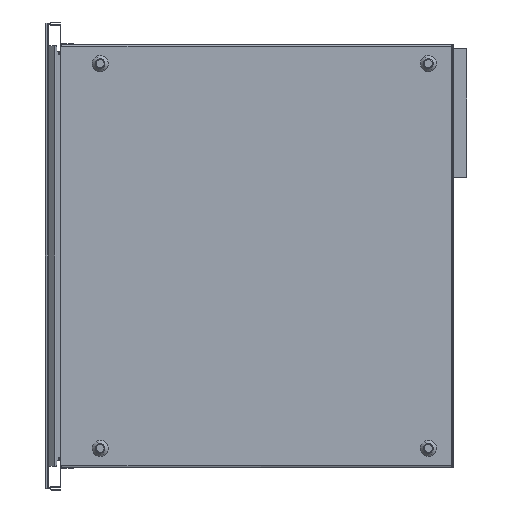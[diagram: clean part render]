
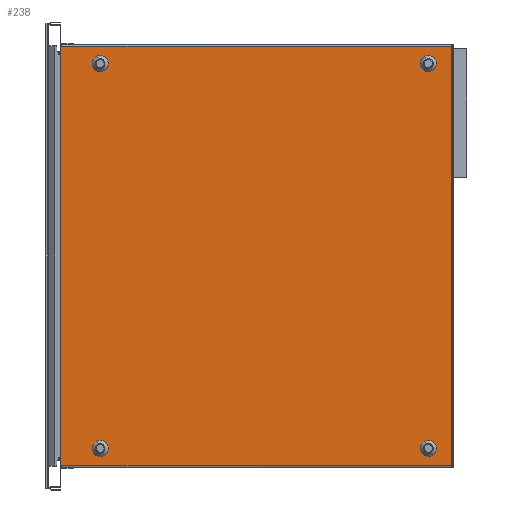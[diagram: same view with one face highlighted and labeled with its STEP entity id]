
A CAD part, front view. The second image highlights one B-rep face of the part: STEP entity #238.
In plain terms, the highlighted planar face has unit normal (0, -1, 0).
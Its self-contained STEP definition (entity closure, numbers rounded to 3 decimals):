
#61=AXIS2_PLACEMENT_3D('Circle Axis2P3D',#59,#60,$) ;
#78=AXIS2_PLACEMENT_3D('Circle Axis2P3D',#76,#77,$) ;
#144=AXIS2_PLACEMENT_3D('Plane Axis2P3D',#141,#142,#143) ;
#186=AXIS2_PLACEMENT_3D('Circle Axis2P3D',#184,#185,$) ;
#195=AXIS2_PLACEMENT_3D('Circle Axis2P3D',#193,#194,$) ;
#204=AXIS2_PLACEMENT_3D('Circle Axis2P3D',#202,#203,$) ;
#213=AXIS2_PLACEMENT_3D('Circle Axis2P3D',#211,#212,$) ;
#222=AXIS2_PLACEMENT_3D('Circle Axis2P3D',#220,#221,$) ;
#231=AXIS2_PLACEMENT_3D('Circle Axis2P3D',#229,#230,$) ;
#40=CARTESIAN_POINT('Vertex',(74.945,-137.,235.948)) ;
#56=CARTESIAN_POINT('Vertex',(65.055,-137.,254.052)) ;
#59=CARTESIAN_POINT('Axis2P3D Location',(70.,-137.,245.)) ;
#76=CARTESIAN_POINT('Axis2P3D Location',(70.,-137.,245.)) ;
#141=CARTESIAN_POINT('Axis2P3D Location',(0.,-137.,0.)) ;
#146=CARTESIAN_POINT('Line Origine',(268.825,-137.,-267.4)) ;
#150=CARTESIAN_POINT('Vertex',(517.65,-137.,-267.4)) ;
#152=CARTESIAN_POINT('Vertex',(20.,-137.,-267.4)) ;
#155=CARTESIAN_POINT('Line Origine',(517.65,-137.,0.)) ;
#159=CARTESIAN_POINT('Vertex',(517.65,-137.,267.4)) ;
#162=CARTESIAN_POINT('Line Origine',(268.825,-137.,267.4)) ;
#166=CARTESIAN_POINT('Vertex',(20.,-137.,267.4)) ;
#169=CARTESIAN_POINT('Line Origine',(20.,-137.,0.)) ;
#184=CARTESIAN_POINT('Axis2P3D Location',(70.,-137.,-245.)) ;
#188=CARTESIAN_POINT('Vertex',(74.945,-137.,-254.052)) ;
#190=CARTESIAN_POINT('Vertex',(65.055,-137.,-235.948)) ;
#193=CARTESIAN_POINT('Axis2P3D Location',(70.,-137.,-245.)) ;
#202=CARTESIAN_POINT('Axis2P3D Location',(488.,-137.,245.)) ;
#206=CARTESIAN_POINT('Vertex',(492.945,-137.,235.948)) ;
#208=CARTESIAN_POINT('Vertex',(483.055,-137.,254.052)) ;
#211=CARTESIAN_POINT('Axis2P3D Location',(488.,-137.,245.)) ;
#220=CARTESIAN_POINT('Axis2P3D Location',(488.,-137.,-245.)) ;
#224=CARTESIAN_POINT('Vertex',(492.945,-137.,-254.052)) ;
#226=CARTESIAN_POINT('Vertex',(483.055,-137.,-235.948)) ;
#229=CARTESIAN_POINT('Axis2P3D Location',(488.,-137.,-245.)) ;
#60=DIRECTION('Axis2P3D Direction',(0.,1.,-0.)) ;
#77=DIRECTION('Axis2P3D Direction',(0.,1.,-0.)) ;
#142=DIRECTION('Axis2P3D Direction',(0.,1.,0.)) ;
#143=DIRECTION('Axis2P3D XDirection',(-1.,0.,0.)) ;
#147=DIRECTION('Vector Direction',(1.,0.,0.)) ;
#156=DIRECTION('Vector Direction',(0.,0.,1.)) ;
#163=DIRECTION('Vector Direction',(-1.,0.,0.)) ;
#170=DIRECTION('Vector Direction',(0.,0.,-1.)) ;
#185=DIRECTION('Axis2P3D Direction',(0.,1.,0.)) ;
#194=DIRECTION('Axis2P3D Direction',(0.,1.,0.)) ;
#203=DIRECTION('Axis2P3D Direction',(0.,1.,0.)) ;
#212=DIRECTION('Axis2P3D Direction',(0.,1.,0.)) ;
#221=DIRECTION('Axis2P3D Direction',(0.,1.,0.)) ;
#230=DIRECTION('Axis2P3D Direction',(0.,1.,0.)) ;
#148=VECTOR('Line Direction',#147,1.) ;
#157=VECTOR('Line Direction',#156,1.) ;
#164=VECTOR('Line Direction',#163,1.) ;
#171=VECTOR('Line Direction',#170,1.) ;
#175=ORIENTED_EDGE('',*,*,#154,.F.) ;
#176=ORIENTED_EDGE('',*,*,#161,.F.) ;
#177=ORIENTED_EDGE('',*,*,#168,.F.) ;
#178=ORIENTED_EDGE('',*,*,#173,.F.) ;
#181=ORIENTED_EDGE('',*,*,#63,.F.) ;
#182=ORIENTED_EDGE('',*,*,#80,.F.) ;
#199=ORIENTED_EDGE('',*,*,#192,.F.) ;
#200=ORIENTED_EDGE('',*,*,#197,.F.) ;
#217=ORIENTED_EDGE('',*,*,#210,.F.) ;
#218=ORIENTED_EDGE('',*,*,#215,.F.) ;
#235=ORIENTED_EDGE('',*,*,#228,.F.) ;
#236=ORIENTED_EDGE('',*,*,#233,.F.) ;
#183=FACE_BOUND('',#180,.T.) ;
#201=FACE_BOUND('',#198,.T.) ;
#219=FACE_BOUND('',#216,.T.) ;
#237=FACE_BOUND('',#234,.T.) ;
#238=ADVANCED_FACE('Schublade.Geh\X2\00E4\X0\use',(#179,#183,#201,#219,#237),#145,.F.) ;
#62=CIRCLE('generated circle',#61,10.315) ;
#79=CIRCLE('generated circle',#78,10.315) ;
#187=CIRCLE('generated circle',#186,10.315) ;
#196=CIRCLE('generated circle',#195,10.315) ;
#205=CIRCLE('generated circle',#204,10.315) ;
#214=CIRCLE('generated circle',#213,10.315) ;
#223=CIRCLE('generated circle',#222,10.315) ;
#232=CIRCLE('generated circle',#231,10.315) ;
#63=EDGE_CURVE('',#57,#41,#62,.F.) ;
#80=EDGE_CURVE('',#41,#57,#79,.F.) ;
#154=EDGE_CURVE('',#151,#153,#149,.F.) ;
#161=EDGE_CURVE('',#160,#151,#158,.F.) ;
#168=EDGE_CURVE('',#167,#160,#165,.F.) ;
#173=EDGE_CURVE('',#153,#167,#172,.F.) ;
#192=EDGE_CURVE('',#189,#191,#187,.F.) ;
#197=EDGE_CURVE('',#191,#189,#196,.F.) ;
#210=EDGE_CURVE('',#207,#209,#205,.F.) ;
#215=EDGE_CURVE('',#209,#207,#214,.F.) ;
#228=EDGE_CURVE('',#225,#227,#223,.F.) ;
#233=EDGE_CURVE('',#227,#225,#232,.F.) ;
#174=EDGE_LOOP('',(#175,#176,#177,#178)) ;
#180=EDGE_LOOP('',(#181,#182)) ;
#198=EDGE_LOOP('',(#199,#200)) ;
#216=EDGE_LOOP('',(#217,#218)) ;
#234=EDGE_LOOP('',(#235,#236)) ;
#179=FACE_OUTER_BOUND('',#174,.T.) ;
#149=LINE('Line',#146,#148) ;
#158=LINE('Line',#155,#157) ;
#165=LINE('Line',#162,#164) ;
#172=LINE('Line',#169,#171) ;
#145=PLANE('',#144) ;
#41=VERTEX_POINT('',#40) ;
#57=VERTEX_POINT('',#56) ;
#151=VERTEX_POINT('',#150) ;
#153=VERTEX_POINT('',#152) ;
#160=VERTEX_POINT('',#159) ;
#167=VERTEX_POINT('',#166) ;
#189=VERTEX_POINT('',#188) ;
#191=VERTEX_POINT('',#190) ;
#207=VERTEX_POINT('',#206) ;
#209=VERTEX_POINT('',#208) ;
#225=VERTEX_POINT('',#224) ;
#227=VERTEX_POINT('',#226) ;
